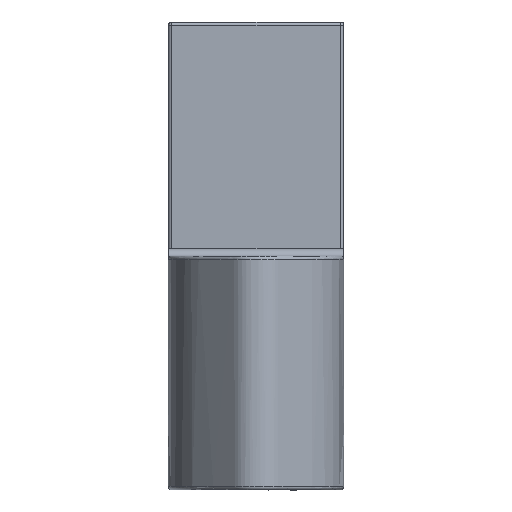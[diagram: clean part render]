
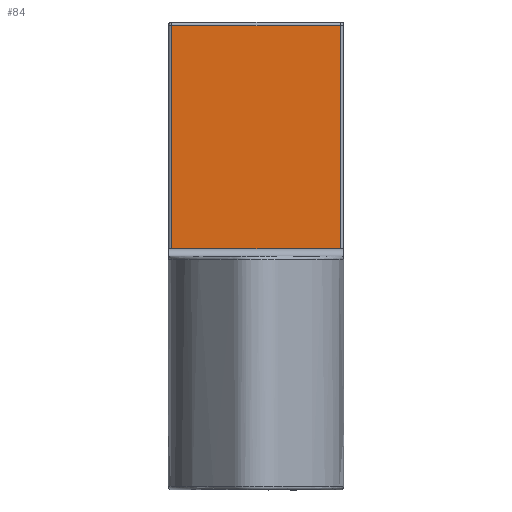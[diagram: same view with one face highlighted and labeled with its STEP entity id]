
A CAD part, left-side view. The second image highlights one B-rep face of the part: STEP entity #84.
In plain terms, the highlighted planar face has unit normal (-1, 0, 0).
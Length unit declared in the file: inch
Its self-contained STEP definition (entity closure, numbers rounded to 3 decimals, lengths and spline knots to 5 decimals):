
#84=ADVANCED_FACE('',(#505),#6490,.T.);
#505=FACE_OUTER_BOUND('',#928,.T.);
#928=EDGE_LOOP('',(#1444,#1445,#1446,#1447));
#1444=ORIENTED_EDGE('',*,*,#3553,.T.);
#1445=ORIENTED_EDGE('',*,*,#3554,.T.);
#1446=ORIENTED_EDGE('',*,*,#3555,.T.);
#1447=ORIENTED_EDGE('',*,*,#3556,.T.);
#3553=EDGE_CURVE('',#5717,#5718,#4620,.T.);
#3554=EDGE_CURVE('',#5718,#5719,#4621,.T.);
#3555=EDGE_CURVE('',#5719,#5720,#4622,.T.);
#3556=EDGE_CURVE('',#5720,#5717,#4623,.T.);
#4620=B_SPLINE_CURVE_WITH_KNOTS('',1,(#11625,#11626),.UNSPECIFIED.,.F.,
 .F.,(2,2),(-0.71875,0.71875),.UNSPECIFIED.);
#4621=B_SPLINE_CURVE_WITH_KNOTS('',1,(#11627,#11628),.UNSPECIFIED.,.F.,
 .F.,(2,2),(-0.95313,0.95313),.UNSPECIFIED.);
#4622=B_SPLINE_CURVE_WITH_KNOTS('',1,(#11629,#11630),.UNSPECIFIED.,.F.,
 .F.,(2,2),(-0.71875,0.71875),.UNSPECIFIED.);
#4623=B_SPLINE_CURVE_WITH_KNOTS('',1,(#11631,#11632),.UNSPECIFIED.,.F.,
 .F.,(2,2),(-0.95313,0.95313),.UNSPECIFIED.);
#5717=VERTEX_POINT('',#10853);
#5718=VERTEX_POINT('',#10854);
#5719=VERTEX_POINT('',#10855);
#5720=VERTEX_POINT('',#10856);
#6490=PLANE('',#6825);
#6825=AXIS2_PLACEMENT_3D('',#7529,#7170,$);
#7170=DIRECTION('',(-1.,0.,0.));
#7529=CARTESIAN_POINT('',(-52.47182,0.76794,10.35109));
#10853=CARTESIAN_POINT('',(-52.47182,0.61217,10.55372));
#10854=CARTESIAN_POINT('',(-52.47182,-0.82533,10.55372));
#10855=CARTESIAN_POINT('',(-52.47182,-0.82533,12.45997));
#10856=CARTESIAN_POINT('',(-52.47182,0.61219,12.45997));
#11625=CARTESIAN_POINT('',(-52.47182,0.61217,10.55372));
#11626=CARTESIAN_POINT('',(-52.47182,-0.82533,10.55372));
#11627=CARTESIAN_POINT('',(-52.47182,-0.82533,10.55372));
#11628=CARTESIAN_POINT('',(-52.47182,-0.82533,12.45997));
#11629=CARTESIAN_POINT('',(-52.47182,-0.82533,12.45997));
#11630=CARTESIAN_POINT('',(-52.47182,0.61219,12.45997));
#11631=CARTESIAN_POINT('',(-52.47182,0.61219,12.45997));
#11632=CARTESIAN_POINT('',(-52.47182,0.61217,10.55372));
